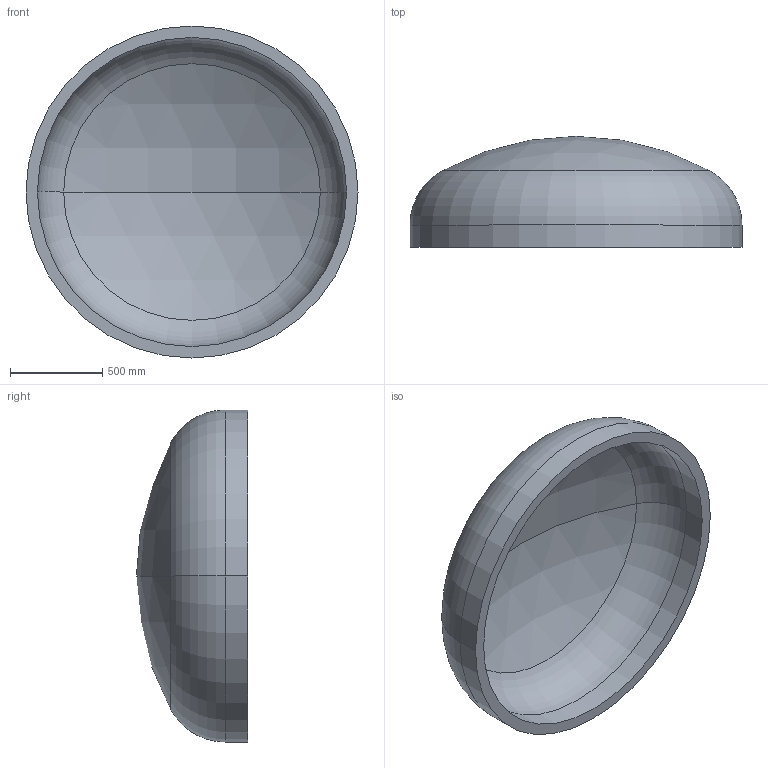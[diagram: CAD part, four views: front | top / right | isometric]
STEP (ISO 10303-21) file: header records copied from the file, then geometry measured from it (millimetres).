
FILE_DESCRIPTION (( 'STEP AP203' ), '1' );
FILE_NAME ('DIN 28013 Korbbogenform_-_Boden DIN 28013 - 1800 x 120 - I - s=62.step', '2016-07-01T12:36:28', ( '' ), ( '' ), 'SwSTEP 2.0', 'SolidWorks 2013', '' );
FILE_SCHEMA (( 'CONFIG_CONTROL_DESIGN' ));
Length unit declared in the file: millimetre
Products named in the file (1): DIN 28013 Korbbogenform_-_Boden DIN 28013 - 1800 x 120 - I - s=62
Bounding box: 1800 x 602.07 x 1800 mm (x, y, z)
Volume: 249218309.7 mm3; surface area: 8385874.3 mm2
Topology: 1 solids, 1 shells, 13 faces, 24 edges, 14 vertices
Faces by surface type: torus 4, cylinder 4, sphere 4, plane 1
Entity records: 407 total; most frequent: DIRECTION 72, CARTESIAN_POINT 52, ORIENTED_EDGE 48, AXIS2_PLACEMENT_3D 34, EDGE_CURVE 24, CIRCLE 20, EDGE_LOOP 14, VERTEX_POINT 14
